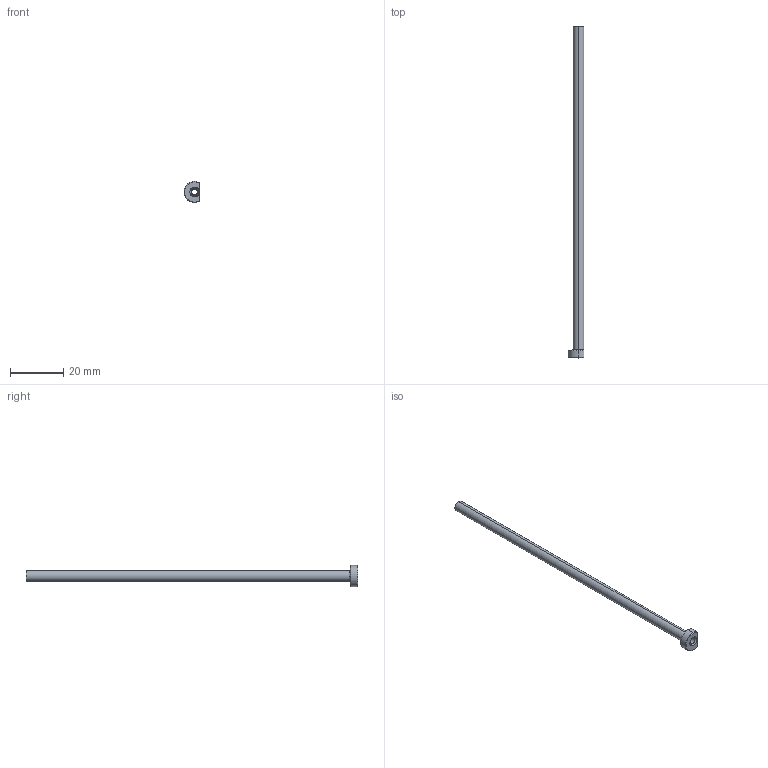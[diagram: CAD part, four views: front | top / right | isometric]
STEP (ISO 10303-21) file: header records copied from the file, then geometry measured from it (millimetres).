
FILE_DESCRIPTION (( 'STEP AP203' ), '1' );
FILE_NAME ('ESD022L125-K.step', '2022-02-05T19:36:45', ( 'Microsoft Corporation' ), ( 'MS' ), 'SwSTEP 2.0', 'SolidWorks 2019', '' );
FILE_SCHEMA (( 'CONFIG_CONTROL_DESIGN' ));
Length unit declared in the file: millimetre
Products named in the file (1): ESD022L125-K
Bounding box: 6 x 125 x 8 mm (x, y, z)
Volume: 1016.4 mm3; surface area: 2663.7 mm2
Topology: 1 solids, 1 shells, 26 faces, 59 edges, 35 vertices
Faces by surface type: cone 10, cylinder 9, plane 4, torus 3
Entity records: 822 total; most frequent: CARTESIAN_POINT 143, DIRECTION 139, ORIENTED_EDGE 118, EDGE_CURVE 59, AXIS2_PLACEMENT_3D 59, VERTEX_POINT 35, CIRCLE 32, EDGE_LOOP 28
